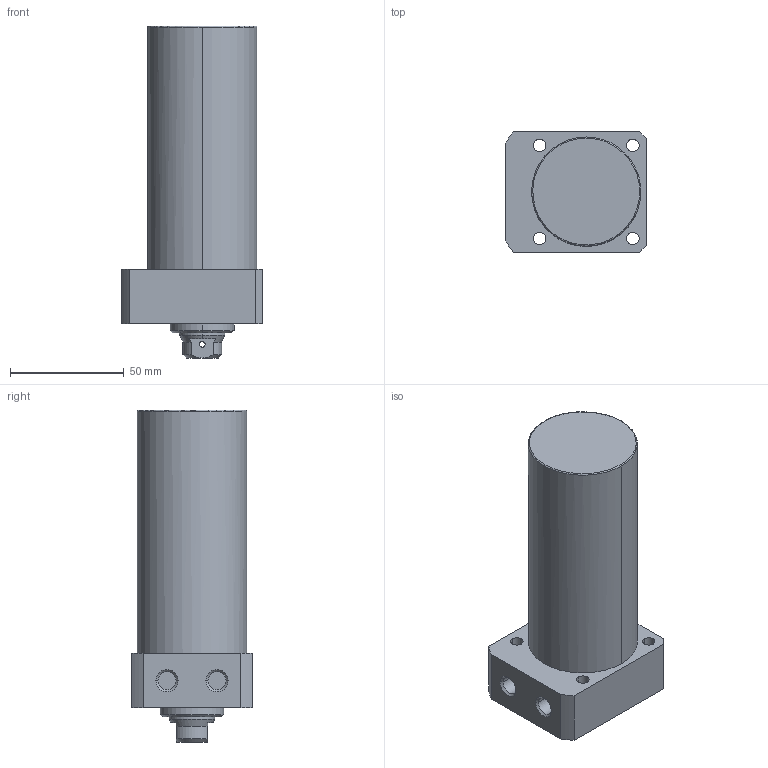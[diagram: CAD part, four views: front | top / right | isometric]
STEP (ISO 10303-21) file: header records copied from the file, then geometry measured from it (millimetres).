
FILE_DESCRIPTION((' '),'2;1');
FILE_NAME( 'TLLR-048CB-080.STEP.stp', '2025-10-24T16:34:32', (' '), ('--- Datakit www.datakit.com---'), ' Datakit CrossCadWare V2024.1 Dec 21 2023', 'Mastercam 2025', ' ');
FILE_SCHEMA(('AUTOMOTIVE_DESIGN { 1 0 10303 214 1 1 1 1 }'));
Length unit declared in the file: millimetre
Products named in the file (1): TLLR-048CB-080
Bounding box: 62 x 53 x 146 mm (x, y, z)
Volume: 271936.8 mm3; surface area: 31537.3 mm2
Topology: 1 solids, 1 shells, 67 faces, 197 edges, 136 vertices
Faces by surface type: cylinder 32, plane 19, cone 14, torus 2
Entity records: 3066 total; most frequent: CARTESIAN_POINT 1147, DIRECTION 426, ORIENTED_EDGE 390, EDGE_CURVE 195, AXIS2_PLACEMENT_3D 179, VERTEX_POINT 136, CIRCLE 111, EDGE_LOOP 85
